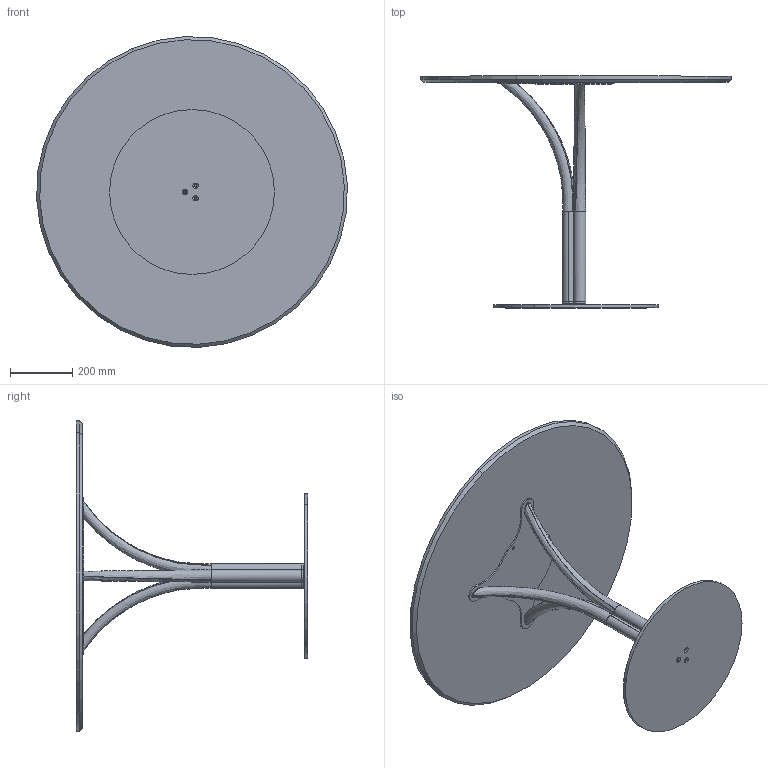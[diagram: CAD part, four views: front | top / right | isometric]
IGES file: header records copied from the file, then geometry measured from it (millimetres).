
Start section: SolidWorks IGES file using analytic representation for surfaces
Global section: file name: Y:\eforma\TECNICO\SOLIDWORKS\E-FORMA\5-TAVOLINI BISTRO\DODÒ\02 parts\DB30M.IGS; native system: SolidWorks 2022; preprocessor: SolidWorks 2022; author: eforma.tech; date: 240808.101517; units: millimetre
Bounding box: 998.98 x 745 x 998.98 mm (x, y, z)
Volume: 18645001.1 mm3; surface area: 2751513.1 mm2
Topology: 9 solids, 9 shells, 113 faces, 269 edges, 170 vertices
Faces by surface type: revolution 77, plane 24, bspline 12
